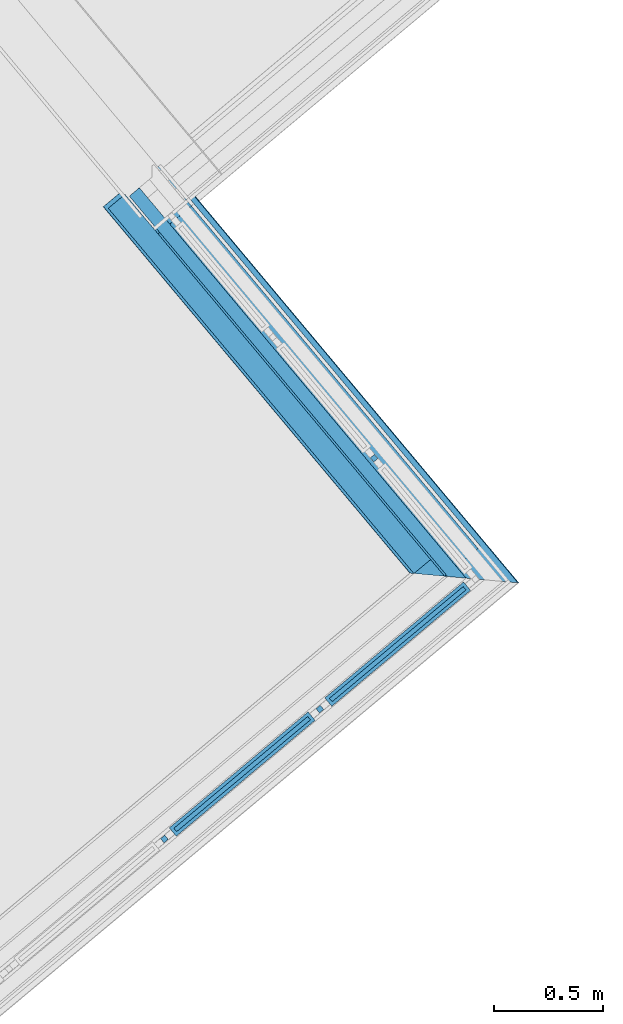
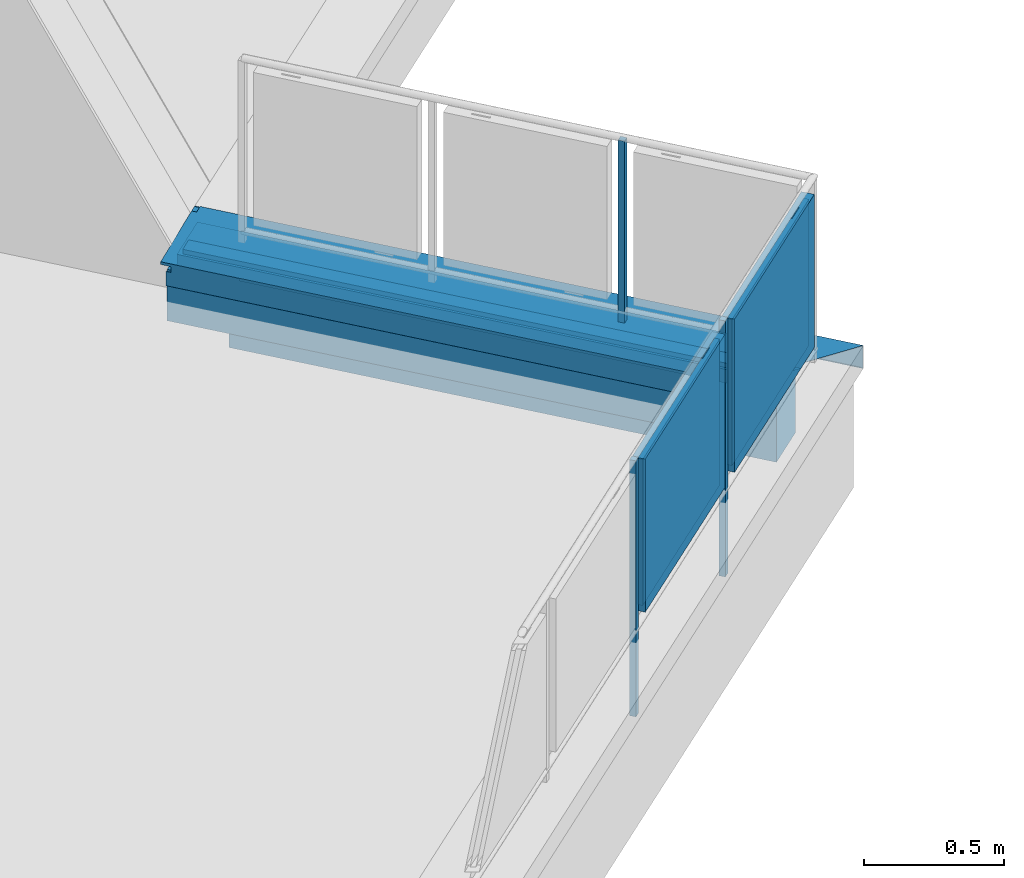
# One storey, part 22 of 61: 13 building element parts, 2 elements without a shape of their own.
"""IFC4 building model written with IfcOpenShell, lengths in metres."""

from ifc_helpers import new_model, entity, si_unit, converted_unit, derived_unit, direction, frame, origin_with_axes, place, context, subcontext, project, spatial, polygons, material, type_object, element, aggregate, save


model = new_model("IFC4")

# Units and contexts
model_context = context("Model", 3, precision=1e-05, world=origin_with_axes(), true_north=direction((0.0, 1.0)))
body_context = subcontext(model_context, "Body", "Model", "MODEL_VIEW")
ifc_project = project(units=[si_unit("LENGTHUNIT", "METRE"), si_unit("AREAUNIT", "SQUARE_METRE"), si_unit("VOLUMEUNIT", "CUBIC_METRE"), converted_unit("PLANEANGLEUNIT", "DEGREE", entity("IfcPlaneAngleMeasure", 0.0174532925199), si_unit("PLANEANGLEUNIT", "RADIAN"), dimensions=[0, 0, 0, 0, 0, 0, 0]), converted_unit("TIMEUNIT", "Year", entity("IfcTimeMeasure", 31556926.0), si_unit("TIMEUNIT", "SECOND"), dimensions=[0, 0, 1, 0, 0, 0, 0]), si_unit("MASSUNIT", "GRAM", prefix="KILO"), si_unit("THERMODYNAMICTEMPERATUREUNIT", "DEGREE_CELSIUS"), si_unit("LUMINOUSINTENSITYUNIT", "LUMEN"), si_unit("ENERGYUNIT", "JOULE", prefix="MEGA"), derived_unit("THERMALCONDUCTANCEUNIT", [(si_unit("POWERUNIT", "WATT"), 1), (si_unit("LENGTHUNIT", "METRE"), -1), (si_unit("THERMODYNAMICTEMPERATUREUNIT", "KELVIN"), -1)]), derived_unit("SPECIFICHEATCAPACITYUNIT", [(si_unit("ENERGYUNIT", "JOULE"), 1), (si_unit("MASSUNIT", "GRAM", prefix="KILO"), -1), (si_unit("THERMODYNAMICTEMPERATUREUNIT", "KELVIN"), -1)]), derived_unit("MASSDENSITYUNIT", [(si_unit("MASSUNIT", "GRAM", prefix="KILO"), 1), (si_unit("VOLUMEUNIT", "CUBIC_METRE"), -1)])], contexts=[model_context])

# Site, building, storey, space
site_placement = place(None, frame((-0.00153261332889, -0.00661245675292, 0.0), z_axis=(0.0, 0.0, 1.0), x_axis=(1.0, 0.0, 0.0)))
site = spatial("IfcSite", under=ifc_project, at=site_placement, Name="Gelände", CompositionType="ELEMENT")
building_placement = place(site_placement, origin_with_axes())
building = spatial("IfcBuilding", under=site, at=building_placement, Name="Gebäude", CompositionType="ELEMENT")
storey_placement = place(building_placement, frame((0.0, 0.0, 5.7), z_axis=(0.0, 0.0, 1.0), x_axis=(1.0, 0.0, 0.0)))
storey = spatial("IfcBuildingStorey", under=building, at=storey_placement, Name="DG1", CompositionType="ELEMENT", Elevation=5.7)
space_placement = place(storey_placement, frame((-1.65459986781, 9.80045444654, 0.22), z_axis=(0.0, 0.0, 1.0), x_axis=(0.640908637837, -0.767617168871, 0.0)))
space = spatial("IfcSpace", under=storey, at=space_placement, CompositionType="ELEMENT", PredefinedType="NOTDEFINED")

# Wall, building element parts
wall_type = type_object("IfcWallType", Name="Bauteil - Attika Balkon 356 x 610", PredefinedType="NOTDEFINED")
wall_placement = place(space_placement, frame((3.6878869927, 8.04651820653, -0.42), z_axis=(0.0, 0.0, 1.0), x_axis=(-0.999999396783, -0.00109837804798, 0.0)))
wall = element("IfcWall", 1, at=wall_placement, inside=space, type_object=wall_type, Name="Wand-003", PredefinedType="NOTDEFINED")
ifc_material_1 = material(Name="Stahl")
building_element_part_1_placement = place(wall_placement, origin_with_axes())
building_element_part_1 = element("IfcBuildingElementPart", 2, at=building_element_part_1_placement, material=ifc_material_1, Name="Stahl", PredefinedType="NOTDEFINED", context=body_context, shape_type="Tessellation", body=[
    polygons([(2.28816066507, 0.113600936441, 0.497561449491), (2.28816064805, 0.113600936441, 0.49999999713), (2.28816064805, 0.112247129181, 0.49999999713), (2.28816066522, 0.112247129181, 0.498915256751), (2.28816064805, 0.111162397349, 0.49999999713), (2.28816064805, 0.109247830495, 0.49999999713), (2.28816066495, 0.112643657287, 0.496604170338), (0.11366744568, 0.113600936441, 0.497561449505), (0.11366744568, 0.113600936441, 0.498915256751), (0.11366744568, 0.113600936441, 0.499999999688), (0.11366744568, 0.113600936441, 0.506731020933), (0.11366744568, 0.113600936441, 0.509099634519), (0.11366744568, 0.113600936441, 0.511410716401), (0.11366744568, 0.113600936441, 0.519273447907), (0.11366744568, 0.113600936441, 0.560000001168), (0.11366744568, 0.113600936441, 0.575576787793), (0.11366744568, 0.113600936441, 0.57982217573), (0.11366744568, 0.113600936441, 0.581921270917), (0.11366744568, 0.113600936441, 0.584015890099), (0.11366744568, 0.113600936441, 0.586106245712), (0.11366744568, 0.113600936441, 0.595846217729), (0.11366744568, 0.113600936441, 0.597151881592), (2.30819672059, 0.113600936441, 0.597151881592), (2.30855126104, 0.113600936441, 0.585743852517), (2.26892354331, 0.113600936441, 0.58451230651), (2.26901216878, 0.113600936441, 0.560000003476), (2.28816065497, 0.113600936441, 0.560000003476), (2.28816065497, 0.112247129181, 0.560000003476), (2.26901216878, 0.112247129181, 0.560000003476), (2.26892354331, 0.112247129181, 0.58451230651), (2.30855126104, 0.112247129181, 0.585743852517), (2.30823729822, 0.112247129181, 0.595846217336), (0.113666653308, 0.112247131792, 0.595846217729), (0.113666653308, 0.112247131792, 0.586106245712), (0.113666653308, 0.112247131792, 0.584015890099), (0.113666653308, 0.112247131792, 0.581921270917), (0.113666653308, 0.112247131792, 0.57982217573), (0.113666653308, 0.112247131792, 0.575576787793), (0.113666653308, 0.112247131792, 0.560000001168), (0.113666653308, 0.112247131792, 0.519273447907), (0.113666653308, 0.112247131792, 0.511410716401), (0.113666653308, 0.112247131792, 0.509099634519), (0.113666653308, 0.112247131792, 0.506731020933), (0.113666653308, 0.112247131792, 0.499999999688), (0.113666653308, 0.112247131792, 0.498915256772), (0.112312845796, 0.112247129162, 0.498915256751), (0.111227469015, 0.111162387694, 0.499999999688), (0.104492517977, 0.104431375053, 0.506731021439), (2.28816064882, 0.104431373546, 0.506731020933), (2.28816064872, 0.103427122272, 0.505820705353), (0.105402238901, 0.103427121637, 0.505820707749), (0.111226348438, 0.109247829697, 0.499999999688), (0.11231172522, 0.110332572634, 0.498915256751), (0.11366553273, 0.110332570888, 0.498915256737), (0.113666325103, 0.11168637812, 0.497561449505), (0.11270960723, 0.112643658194, 0.496604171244), (0.113645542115, 0.076177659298, 0.597151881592), (2.30791770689, -0.134301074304, 0.606129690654), (-0.201826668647, -0.201708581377, 0.608570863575), (-0.204072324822, -0.203952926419, 0.608652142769), (-0.242849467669, -0.242707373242, 0.610055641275), (2.28816065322, -0.242707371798, 0.610055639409), (2.28816065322, -0.171687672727, 0.607483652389), (2.30787743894, -0.171687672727, 0.607483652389), (2.30791770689, -0.171838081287, 0.606129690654), (2.30787743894, -0.209241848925, 0.607483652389), (2.28816065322, -0.209241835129, 0.607483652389), (2.28816065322, -0.23927649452, 0.608570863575), (-0.201848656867, -0.23927649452, 0.608570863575), (-0.204094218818, -0.24135985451, 0.608652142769), (-0.20409500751, -0.242707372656, 0.608652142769), (2.30791770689, -0.242707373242, 0.606129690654), (2.30787743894, -0.242707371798, 0.607483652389), (2.28816065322, -0.242707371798, 0.607483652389), (-0.241502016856, -0.242707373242, 0.60865214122), (-0.241502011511, -0.242707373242, 0.608570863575), (-0.241501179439, -0.242707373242, 0.595846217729), (-0.241500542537, -0.242707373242, 0.586106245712), (-0.241500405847, -0.242707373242, 0.584015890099), (-0.241500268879, -0.242707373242, 0.581921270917), (-0.241500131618, -0.242707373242, 0.57982217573), (-0.24149985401, -0.242707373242, 0.575576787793), (-0.241498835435, -0.242707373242, 0.560000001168), (-0.241496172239, -0.242707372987, 0.519273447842), (-0.241495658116, -0.242707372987, 0.511410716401), (-0.239581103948, -0.242707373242, 0.511410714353), (-0.240934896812, -0.242707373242, 0.510056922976), (2.05142693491, -0.242707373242, 0.510056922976), (2.05133740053, -0.242707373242, 0.511410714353), (2.05081739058, -0.242707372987, 0.519273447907), (2.04812389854, -0.242707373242, 0.560000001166), (2.04709371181, -0.242707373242, 0.575576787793), (2.04695865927, -0.242707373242, 0.577618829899), (2.04685377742, -0.242707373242, 0.579204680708), (2.04681293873, -0.242707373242, 0.57982217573), (2.04673066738, -0.242707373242, 0.581066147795), (2.04667411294, -0.242707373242, 0.581921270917), (2.04662543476, -0.242707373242, 0.582657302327), (2.04653558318, -0.242707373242, 0.584015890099), (2.04650275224, -0.242707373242, 0.584512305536), (2.04639733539, -0.242707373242, 0.586106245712), (2.04575317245, -0.242707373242, 0.595846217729), (2.04558999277, -0.242707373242, 0.598313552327), (2.04646649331, -0.242707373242, 0.598339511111), (2.28816065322, -0.241359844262, 0.607483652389), (2.28816065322, -0.24135992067, 0.60865214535), (-0.241501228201, -0.241359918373, 0.608652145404), (2.30791770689, -0.241359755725, 0.606129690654), (2.30787743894, -0.241359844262, 0.607483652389), (-0.241501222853, -0.241359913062, 0.608570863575), (-0.241500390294, -0.24135908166, 0.595846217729), (-0.241499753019, -0.24135844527, 0.586106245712), (-0.24149961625, -0.24135830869, 0.584015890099), (-0.241499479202, -0.241358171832, 0.581921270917), (-0.24149934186, -0.241358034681, 0.57982217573), (-0.24149906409, -0.241357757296, 0.575576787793), (-0.241498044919, -0.241356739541, 0.560000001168), (-0.241495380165, -0.241354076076, 0.519273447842), (-0.24149486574, -0.241353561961, 0.511410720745), (-0.239580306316, -0.241353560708, 0.511410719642), (-0.239579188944, -0.239439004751, 0.511410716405), (-0.241891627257, -0.241750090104, 0.509099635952), (2.0514902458, -0.241750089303, 0.509099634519), (2.05145397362, -0.242298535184, 0.509648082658), (2.05145397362, -0.241201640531, 0.509648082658), (2.0513374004, -0.239439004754, 0.511410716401), (2.05133740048, -0.241353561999, 0.511410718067), (2.05081739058, -0.241354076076, 0.519273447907), (2.04812389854, -0.241356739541, 0.560000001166), (2.04709371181, -0.241357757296, 0.575576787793), (2.04695865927, -0.241357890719, 0.577618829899), (2.04685377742, -0.241357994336, 0.579204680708), (2.04681293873, -0.241358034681, 0.57982217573), (2.04673066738, -0.24135811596, 0.581066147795), (2.04667411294, -0.241358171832, 0.581921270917), (2.04662543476, -0.241358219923, 0.582657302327), (2.04653558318, -0.24135830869, 0.584015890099), (2.04650275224, -0.241358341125, 0.584512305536), (2.04639733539, -0.24135844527, 0.586106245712), (2.04575317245, -0.24135908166, 0.595846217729), (2.04558999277, -0.241359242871, 0.598313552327), (2.04646649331, -0.241359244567, 0.598339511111), (2.28816065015, -0.232580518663, 0.518269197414), (2.2881606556, -0.239439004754, 0.511410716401), (2.07316067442, -0.239439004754, 0.511410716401), (-0.232716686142, -0.232580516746, 0.518269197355), (-0.232717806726, -0.234495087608, 0.518269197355), (2.07316068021, -0.241353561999, 0.511410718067), (2.28816064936, -0.241353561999, 0.511410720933), (2.28816065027, -0.233490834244, 0.519273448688), (-0.233627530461, -0.233490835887, 0.519273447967)], [[[1, 2, 3, 4, 5, 6, 7]], [[2, 1, 8, 9, 10, 11, 12, 13, 14, 15, 16, 17, 18, 19, 20, 21, 22, 23, 24, 25, 26, 27]], [[2, 27, 28, 3]], [[4, 3, 28, 29, 30, 31, 32, 33, 34, 35, 36, 37, 38, 39, 40, 41, 42, 43, 44, 45]], [[5, 4, 45, 46, 47, 48, 49]], [[6, 5, 49, 50]], [[7, 6, 50, 51, 52, 53, 54, 55, 56]], [[1, 7, 56, 8]], [[45, 9, 8, 55, 54]], [[10, 9, 45, 44]], [[11, 10, 44, 43]], [[12, 11, 43, 42]], [[13, 12, 42, 41]], [[14, 13, 41, 40]], [[15, 14, 40, 39]], [[16, 15, 39, 38]], [[17, 16, 38, 37]], [[17, 37, 36, 18]], [[19, 18, 36, 35]], [[20, 19, 35, 34]], [[21, 20, 34, 33]], [[22, 21, 33, 57]], [[58, 23, 22, 59, 60, 61, 62, 63, 64]], [[31, 24, 23, 58, 65, 32]], [[30, 25, 24, 31]], [[29, 26, 25, 30]], [[28, 27, 26, 29]], [[32, 65, 66, 67, 68, 69, 57, 33]], [[46, 45, 54, 53]], [[47, 46, 53, 52]], [[51, 48, 47, 52]], [[50, 49, 48, 51]], [[8, 56, 55]], [[22, 57, 69, 59]], [[60, 59, 69, 70]], [[61, 60, 70, 71]], [[72, 73, 74, 62, 61, 71, 75, 76, 77, 78, 79, 80, 81, 82, 83, 84, 85, 86, 87, 88, 89, 90, 91, 92, 93, 94, 95, 96, 97, 98, 99, 100, 101, 102, 103, 104]], [[67, 63, 62, 74, 105, 106, 68]], [[64, 63, 67, 66]], [[58, 64, 66, 65]], [[68, 106, 70, 69]], [[107, 75, 71, 70]], [[108, 109, 73, 72]], [[109, 105, 74, 73]], [[110, 76, 75, 107]], [[110, 111, 77, 76]], [[111, 112, 78, 77]], [[112, 113, 79, 78]], [[113, 114, 80, 79]], [[115, 81, 80, 114]], [[115, 116, 82, 81]], [[116, 117, 83, 82]], [[117, 118, 84, 83]], [[118, 119, 85, 84]], [[119, 120, 86, 85]], [[121, 122, 87, 86, 120]], [[122, 123, 124, 88, 87]], [[125, 126, 127, 89, 88, 124]], [[127, 128, 90, 89]], [[90, 128, 129, 91]], [[129, 130, 92, 91]], [[130, 131, 93, 92]], [[131, 132, 94, 93]], [[132, 133, 95, 94]], [[133, 134, 96, 95]], [[134, 135, 97, 96]], [[135, 136, 98, 97]], [[136, 137, 99, 98]], [[137, 138, 100, 99]], [[138, 139, 101, 100]], [[139, 140, 102, 101]], [[102, 140, 141, 103]], [[141, 142, 104, 103]], [[108, 72, 104, 142]], [[109, 108, 142, 141, 140, 139, 138, 137, 136, 135, 134, 133, 132, 131, 130, 129, 128, 127, 120, 119, 118, 117, 116, 115, 114, 113, 112, 111, 110, 107, 70, 106, 105]], [[143, 144, 145, 126, 125, 123, 122, 121, 146]], [[146, 121, 120, 147]], [[123, 125, 124]], [[127, 126, 145, 148]], [[149, 150, 151, 147, 120, 127, 148]], [[143, 150, 149, 144]], [[144, 149, 148, 145]], [[150, 143, 146, 151]], [[146, 147, 151]]], closed=True),
])
ifc_material_2 = material(Name="Holzwerkstoff")
building_element_part_2_placement = place(wall_placement, origin_with_axes())
building_element_part_2 = element("IfcBuildingElementPart", 3, at=building_element_part_2_placement, material=ifc_material_2, Name="Holzwerkstoff", PredefinedType="NOTDEFINED", context=body_context, shape_type="Tessellation", body=[
    polygons([(2.26892354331, 0.111851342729, 0.58451230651), (2.26895585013, 0.111539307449, 0.575576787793), (0.111604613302, 0.111539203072, 0.575576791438), (0.111752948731, 0.111687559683, 0.579822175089), (0.111826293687, 0.111760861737, 0.581921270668), (0.111899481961, 0.11183400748, 0.584015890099), (0.111972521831, 0.111907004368, 0.586106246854), (0.112312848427, 0.112247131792, 0.5958462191), (2.30823729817, 0.112247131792, 0.5958462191), (2.30855126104, 0.111894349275, 0.585743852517), (2.26894050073, -0.0100326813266, 0.579822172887), (2.26892354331, -0.144340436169, 0.58451230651), (2.26892533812, -0.13012497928, 0.584015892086), (2.26893291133, -0.0701429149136, 0.581921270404), (0.111681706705, -0.0100326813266, 0.579822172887), (0.111719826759, -0.0701429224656, 0.581921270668), (0.111757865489, -0.130124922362, 0.584015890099), (0.111795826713, -0.189984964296, 0.586106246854), (0.111827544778, -0.23999998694, 0.587852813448), (0.112106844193, -0.239720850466, 0.5958462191), (2.30791770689, -0.171838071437, 0.606129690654), (-0.239416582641, -0.239276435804, 0.608570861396), (2.28816065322, -0.23927649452, 0.608570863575), (2.28816065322, -0.209241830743, 0.607483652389), (2.30787743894, -0.209241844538, 0.607483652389), (2.30791770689, -0.239361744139, 0.606129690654), (2.30848571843, -0.23999998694, 0.587852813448), (2.30853999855, -0.189984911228, 0.586106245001), (2.30855126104, -0.179607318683, 0.585743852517), (2.30787743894, -0.239314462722, 0.607483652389), (2.28816065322, -0.23931446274, 0.607483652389)], [[[1, 2, 3, 4, 5, 6, 7, 8, 9, 10]], [[11, 2, 1, 12, 13, 14]], [[2, 11, 15, 3]], [[4, 3, 15]], [[5, 4, 15, 16]], [[6, 5, 16, 17]], [[7, 6, 17, 18]], [[8, 7, 18, 19, 20]], [[21, 9, 8, 22, 23, 24, 25]], [[10, 9, 21, 26, 27, 28, 29]], [[1, 10, 29, 12]], [[13, 12, 29, 28, 18, 17]], [[14, 13, 17, 16]], [[11, 14, 16, 15]], [[18, 28, 27, 19]], [[30, 31, 23, 22, 20, 19, 27, 26]], [[22, 8, 20]], [[31, 24, 23]], [[24, 31, 30, 25]], [[21, 25, 30, 26]]], closed=True),
])
ifc_material_3 = material(Name="EPS 1")
building_element_part_3_placement = place(wall_placement, origin_with_axes())
building_element_part_3 = element("IfcBuildingElementPart", 4, at=building_element_part_3_placement, material=ifc_material_3, Name="EPS 1", PredefinedType="NOTDEFINED", context=body_context, shape_type="Tessellation", body=[
    polygons([(0.100058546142, 0.0999999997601, 0.560000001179), (0.100000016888, -2.39911202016e-10, 0.560000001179), (2.28816065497, -2.39909425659e-10, 0.560000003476), (2.28816065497, 0.0999999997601, 0.560000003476), (0.100000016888, -2.39911202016e-10, 0.519273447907), (0.100058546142, 0.0999999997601, 0.519273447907), (0.100000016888, -2.39911202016e-10, 0.511410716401), (0.100000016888, -2.39911202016e-10, 0.509099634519), (0.100000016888, -2.39911202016e-10, 0.506731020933), (0.100000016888, -2.39911202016e-10, 0.499999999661), (0.100000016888, -2.39911202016e-10, 0.498915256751), (0.100000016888, -2.39911202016e-10, 0.496604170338), (0.100000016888, -2.39911202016e-10, 0.334999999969), (2.28816064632, -2.39911202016e-10, 0.334999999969), (2.28816064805, -2.39909425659e-10, 0.49999999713), (2.28816064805, 0.0999999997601, 0.49999999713), (2.28816064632, 0.0999999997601, 0.334999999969), (0.100058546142, 0.0999999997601, 0.334999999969), (0.100058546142, 0.0999999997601, 0.496604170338), (0.100058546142, 0.0999999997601, 0.498915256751), (0.100058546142, 0.0999999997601, 0.499999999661), (0.100058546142, 0.0999999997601, 0.506731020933), (0.100058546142, 0.0999999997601, 0.509099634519), (0.100058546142, 0.0999999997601, 0.511410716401)], [[[1, 2, 3, 4]], [[5, 2, 1, 6]], [[2, 5, 7, 8, 9, 10, 11, 12, 13, 14, 15, 3]], [[16, 4, 3, 15]], [[6, 1, 4, 16, 17, 18, 19, 20, 21, 22, 23, 24]], [[5, 6, 24, 7]], [[7, 24, 23, 8]], [[8, 23, 22, 9]], [[9, 22, 21, 10]], [[10, 21, 20, 11]], [[11, 20, 19, 12]], [[12, 19, 18, 13]], [[13, 18, 17, 14]], [[16, 15, 14, 17]]], closed=True),
])
ifc_material_4 = material(Name="Vollholz")
building_element_part_4_placement = place(wall_placement, origin_with_axes())
building_element_part_4 = element("IfcBuildingElementPart", 5, at=building_element_part_4_placement, material=ifc_material_4, Name="Vollholz", PredefinedType="NOTDEFINED", context=body_context, shape_type="Tessellation", body=[
    polygons([(-0.0100385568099, -0.0100326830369, 0.579822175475), (-0.0701839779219, -0.0701429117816, 0.581921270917), (2.26893291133, -0.0701429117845, 0.581921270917), (2.26894050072, -0.0100326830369, 0.579822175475), (-0.0100737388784, -0.0701429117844, 0.579822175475), (-0.0100973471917, -0.0701429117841, 0.575576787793), (-0.010183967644, -0.0701429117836, 0.560000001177), (2.26901216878, -0.0701429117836, 0.560000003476), (2.26901216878, -0.0101429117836, 0.560000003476), (-0.0100621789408, -0.0100562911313, 0.575576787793), (-0.0101488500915, -0.0101429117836, 0.560000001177)], [[[1, 2, 3, 4]], [[5, 2, 1]], [[2, 5, 6, 7, 8, 3]], [[9, 4, 3, 8]], [[10, 1, 4, 9, 11]], [[5, 1, 10, 6]], [[6, 10, 11, 7]], [[7, 11, 9, 8]]], closed=True),
])
ifc_material_5 = material(Name="Stahlbeton")
building_element_part_5_placement = place(wall_placement, origin_with_axes())
building_element_part_5 = element("IfcBuildingElementPart", 6, at=building_element_part_5_placement, material=ifc_material_5, Name="Stahlbeton", PredefinedType="NOTDEFINED", context=body_context, shape_type="Tessellation", body=[
    polygons([(2.05176382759, -0.19999996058, 0.498951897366), (2.0507455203, -0.19999996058, 0.499843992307), (2.05073521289, -0.19999996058, 0.499999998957), (-0.000117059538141, -0.19999996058, 0.500000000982), (-0.00011705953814, -0.19999996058, 0.498915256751), (-0.00011705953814, -0.19999996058, 0.496604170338), (-0.00011705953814, -0.19999996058, 0.334999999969), (-0.000117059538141, -0.19999996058, 0.2), (2.08816069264, -0.19999996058, 0.2), (2.08816069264, -0.19999996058, 0.334999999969), (2.08816069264, -0.19999996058, 0.496604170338), (2.08816069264, -0.19999996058, 0.498915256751), (2.0881606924, -0.19999996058, 0.498951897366), (2.07316067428, -0.19999996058, 0.498951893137), (2.05176382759, -1.0529745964e-09, 0.498951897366), (2.0507455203, -1.0529745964e-09, 0.499843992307), (2.05073521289, -1.0529745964e-09, 0.499999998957), (-1.05358832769e-09, -1.05297104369e-09, 0.500000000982), (-1.05358921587e-09, -1.05297282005e-09, 0.498915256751), (-1.05358921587e-09, -1.05297282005e-09, 0.496604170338), (-1.05358921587e-09, -1.05297282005e-09, 0.334999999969), (-1.05358921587e-09, -1.05297104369e-09, 0.2), (2.08816069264, -1.0529745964e-09, 0.2), (2.08816069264, -1.0529745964e-09, 0.334999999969), (2.08816069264, -1.0529745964e-09, 0.496604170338), (2.08816069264, -1.0529745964e-09, 0.498915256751), (2.0881606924, -1.0529745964e-09, 0.498951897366), (2.07316067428, -1.0529745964e-09, 0.498951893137)], [[[1, 2, 3, 4, 5, 6, 7, 8, 9, 10, 11, 12, 13, 14]], [[2, 1, 15, 16]], [[17, 3, 2, 16]], [[3, 17, 18, 4]], [[5, 4, 18, 19]], [[5, 19, 20, 6]], [[6, 20, 21, 7]], [[7, 21, 22, 8]], [[23, 9, 8, 22]], [[24, 10, 9, 23]], [[25, 11, 10, 24]], [[26, 12, 11, 25]], [[27, 13, 12, 26]], [[28, 14, 13, 27]], [[15, 1, 14, 28]], [[16, 15, 28, 27, 26, 25, 24, 21, 20, 19, 18, 17]], [[24, 23, 22, 21]]], closed=True),
])
ifc_material_6 = material(Name="Brettschichtholz")
building_element_part_6_placement = place(wall_placement, origin_with_axes())
building_element_part_6 = element("IfcBuildingElementPart", 7, at=building_element_part_6_placement, material=ifc_material_6, Name="Brettschichtholz", PredefinedType="NOTDEFINED", context=body_context, shape_type="Tessellation", body=[
    polygons([(-0.00011127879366, -0.190124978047, 0.560000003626), (-0.000125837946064, -0.214999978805, 0.560000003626), (2.28816065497, -0.214999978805, 0.560000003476), (2.28816065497, -0.190124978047, 0.560000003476), (-0.000125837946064, -0.214999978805, 0.519273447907), (-7.61612388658e-05, -0.130124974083, 0.560000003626), (-4.10541848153e-05, -0.0701429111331, 0.560000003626), (-5.93663490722e-06, -0.010142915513, 0.560000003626), (0.0, 0.0, 0.560000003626), (0.0, 0.0, 0.519273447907), (-0.000125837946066, -0.214999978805, 0.511410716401), (-0.000125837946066, -0.214999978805, 0.509099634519), (-0.000125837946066, -0.214999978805, 0.506731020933), (-0.000125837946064, -0.214999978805, 0.499999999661), (2.05073521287, -0.214999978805, 0.499999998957), (2.05065037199, -0.214999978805, 0.501284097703), (2.05029049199, -0.214999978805, 0.506731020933), (2.05013399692, -0.214999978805, 0.509099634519), (2.05149024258, -0.214999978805, 0.509099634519), (2.05885392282, -0.214999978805, 0.509099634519), (2.05933439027, -0.214999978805, 0.509648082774), (2.07316068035, -0.214999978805, 0.509648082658), (2.2881606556, -0.214999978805, 0.509648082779), (2.2881606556, 0.0, 0.509648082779), (2.28816065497, 0.0, 0.560000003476), (2.28816065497, -0.010142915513, 0.560000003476), (2.28816065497, -0.0701429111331, 0.560000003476), (2.28816065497, -0.130124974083, 0.560000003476), (2.07316068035, 0.0, 0.509648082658), (2.05933439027, 0.0, 0.509648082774), (2.05885392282, 0.0, 0.509099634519), (2.05149024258, 0.0, 0.509099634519), (2.05013399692, 0.0, 0.509099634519), (2.05029049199, 0.0, 0.506731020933), (2.05065037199, 0.0, 0.501284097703), (2.05073521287, 0.0, 0.499999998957), (0.0, 0.0, 0.499999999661), (0.0, 0.0, 0.506731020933), (0.0, 0.0, 0.509099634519), (0.0, 0.0, 0.511410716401)], [[[1, 2, 3, 4]], [[5, 2, 1, 6, 7, 8, 9, 10]], [[2, 5, 11, 12, 13, 14, 15, 16, 17, 18, 19, 20, 21, 22, 23, 3]], [[23, 24, 25, 26, 27, 28, 4, 3]], [[6, 1, 4, 28]], [[7, 6, 28, 27]], [[8, 7, 27, 26]], [[9, 8, 26, 25]], [[10, 9, 25, 24, 29, 30, 31, 32, 33, 34, 35, 36, 37, 38, 39, 40]], [[5, 10, 40, 11]], [[11, 40, 39, 12]], [[12, 39, 38, 13]], [[13, 38, 37, 14]], [[36, 15, 14, 37]], [[35, 16, 15, 36]], [[34, 17, 16, 35]], [[18, 17, 34, 33]], [[19, 18, 33, 32]], [[31, 20, 19, 32]], [[21, 20, 31, 30]], [[21, 30, 29, 22]], [[22, 29, 24, 23]]], closed=True),
])
aggregate(wall, [building_element_part_1, building_element_part_2, building_element_part_3, building_element_part_4, building_element_part_5, building_element_part_6])

# Railing, building element parts
railing_type = type_object("IfcRailingType", Name="Geländerart", PredefinedType="NOTDEFINED")
railing_placement = place(space_placement, frame((-0.0155551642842, 0.517171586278, 0.16), z_axis=(0.0, 0.0, 1.0), x_axis=(0.640908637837, 0.767617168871, 0.0)))
railing = element("IfcRailing", 8, at=railing_placement, inside=space, type_object=railing_type, Name="Geländer - 001", PredefinedType="NOTDEFINED")
ifc_material_7 = material(Name="Aluminium")
building_element_part_7_placement = place(railing_placement, origin_with_axes())
building_element_part_7 = element("IfcBuildingElementPart", 9, at=building_element_part_7_placement, material=ifc_material_7, Name="Aluminium", PredefinedType="NOTDEFINED", context=body_context, shape_type="Tessellation", body=[
    polygons([(6.8836808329, 0.773895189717, -0.3), (6.86765100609, 0.793079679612, -0.3), (6.86765100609, 0.793079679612, 0.82), (6.8836808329, 0.773895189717, 0.82), (6.86449634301, 0.75786536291, -0.3), (6.8484665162, 0.777049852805, -0.3), (6.8484665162, 0.777049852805, 0.82), (6.86449634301, 0.75786536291, 0.82)], [[[1, 2, 3, 4]], [[1, 5, 6, 2]], [[2, 6, 7, 3]], [[4, 3, 7, 8]], [[5, 1, 4, 8]], [[6, 5, 8, 7]]], closed=True),
])
ifc_material_8 = material(Name="Profilit")
building_element_part_8_placement = place(railing_placement, origin_with_axes())
building_element_part_8 = element("IfcBuildingElementPart", 10, at=building_element_part_8_placement, material=ifc_material_8, Name="Profilit", PredefinedType="NOTDEFINED", context=body_context, shape_type="Tessellation", body=[
    polygons([(7.52418472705, 1.33839633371, 0.135), (6.90954141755, 0.824823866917, 0.135), (6.90954141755, 0.824823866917, 0.775), (7.52418472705, 1.33839633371, 0.775), (6.922365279, 0.809476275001, 0.135), (7.5370085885, 1.32304874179, 0.135), (6.922365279, 0.809476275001, 0.775), (7.5370085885, 1.32304874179, 0.775)], [[[1, 2, 3, 4]], [[5, 2, 1, 6]], [[7, 3, 2, 5]], [[4, 3, 7, 8]], [[1, 4, 8, 6]], [[7, 5, 6, 8]]], closed=True),
])
building_element_part_9_placement = place(railing_placement, origin_with_axes())
building_element_part_9 = element("IfcBuildingElementPart", 11, at=building_element_part_9_placement, material=ifc_material_7, Name="Aluminium", PredefinedType="NOTDEFINED", context=body_context, shape_type="Tessellation", body=[
    polygons([(6.97957763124, 0.873569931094, 0.12), (7.03329420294, 0.918453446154, 0.12), (7.03329420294, 0.918453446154, 0.095), (6.97957763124, 0.873569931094, 0.095), (6.9827835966, 0.869733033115, 0.12), (7.03650016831, 0.914616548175, 0.12), (7.03650016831, 0.914616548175, 0.095), (6.9827835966, 0.869733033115, 0.095)], [[[1, 2, 3, 4]], [[5, 6, 2, 1]], [[2, 6, 7, 3]], [[4, 3, 7, 8]], [[1, 4, 8, 5]], [[8, 7, 6, 5]]], closed=True),
    polygons([(7.46376640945, 1.27813957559, 0.79), (7.41004983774, 1.23325606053, 0.79), (7.41004983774, 1.23325606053, 0.795), (7.46376640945, 1.27813957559, 0.795), (7.46697237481, 1.27430267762, 0.79), (7.41325580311, 1.22941916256, 0.79), (7.41325580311, 1.22941916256, 0.795), (7.46697237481, 1.27430267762, 0.795)], [[[1, 2, 3, 4]], [[5, 6, 2, 1]], [[2, 6, 7, 3]], [[4, 3, 7, 8]], [[1, 4, 8, 5]], [[8, 7, 6, 5]]], closed=True),
    polygons([(6.92047248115, 0.78834768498, 0.12), (6.88841282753, 0.82671666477, 0.12), (7.5260775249, 1.35952492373, 0.12), (7.55813717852, 1.32115594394, 0.12), (6.93582007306, 0.801171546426, 0.14), (6.92620217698, 0.812682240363, 0.14), (6.922365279, 0.809476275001, 0.135), (6.90954141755, 0.824823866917, 0.135), (6.91337831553, 0.828029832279, 0.14), (6.90376041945, 0.839540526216, 0.14), (7.51072993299, 1.34670106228, 0.14), (7.51072993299, 1.34670106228, 0.77), (6.90376041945, 0.839540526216, 0.77), (6.90376041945, 0.839540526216, 0.14), (6.88841282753, 0.82671666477, 0.12), (6.88841282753, 0.82671666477, 0.79), (7.5260775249, 1.35952492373, 0.79), (7.55813717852, 1.32115594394, 0.79), (6.92047248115, 0.78834768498, 0.79), (6.92047248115, 0.78834768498, 0.12), (6.93582007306, 0.801171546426, 0.14), (6.93582007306, 0.801171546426, 0.77), (7.5427895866, 1.30833208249, 0.77), (7.5427895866, 1.30833208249, 0.14), (7.53317169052, 1.31984277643, 0.14), (7.53317169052, 1.31984277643, 0.77), (6.92620217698, 0.812682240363, 0.77), (6.92620217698, 0.812682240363, 0.14), (6.922365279, 0.809476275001, 0.135), (6.922365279, 0.809476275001, 0.775), (7.5370085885, 1.32304874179, 0.775), (7.5370085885, 1.32304874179, 0.135), (7.52418472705, 1.33839633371, 0.135), (7.52418472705, 1.33839633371, 0.775), (6.90954141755, 0.824823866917, 0.775), (6.90954141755, 0.824823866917, 0.135), (6.91337831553, 0.828029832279, 0.14), (6.91337831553, 0.828029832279, 0.77), (7.52034782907, 1.33519036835, 0.77), (7.52034782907, 1.33519036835, 0.14)], [[[1, 2, 3, 4]], [[1, 5, 6, 7, 8, 9, 10, 2]], [[2, 10, 11, 12, 13, 14, 15, 16, 17, 3]], [[4, 3, 17, 18]], [[5, 1, 4, 18, 19, 20, 21, 22, 23, 24]], [[6, 5, 24, 25]], [[7, 6, 25, 26, 27, 28, 29, 30, 31, 32]], [[8, 7, 32, 33]], [[9, 8, 33, 34, 35, 36, 37, 38, 39, 40]], [[10, 9, 40, 11]], [[11, 40, 39, 12]], [[12, 39, 38, 13]], [[13, 38, 37, 14]], [[20, 15, 14, 37, 36, 29, 28, 21]], [[19, 16, 15, 20]], [[18, 17, 16, 19]], [[27, 22, 21, 28]], [[26, 23, 22, 27]], [[25, 24, 23, 26]], [[35, 30, 29, 36]], [[34, 31, 30, 35]], [[33, 32, 31, 34]]], closed=True),
])
building_element_part_10_placement = place(railing_placement, origin_with_axes())
building_element_part_10 = element("IfcBuildingElementPart", 12, at=building_element_part_10_placement, material=ifc_material_7, Name="Aluminium", PredefinedType="NOTDEFINED", context=body_context, shape_type="Tessellation", body=[
    polygons([(7.59808348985, 1.3708227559, -0.3), (7.58205366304, 1.3900072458, -0.3), (7.58205366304, 1.3900072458, 0.82), (7.59808348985, 1.3708227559, 0.82), (7.57889899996, 1.3547929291, -0.3), (7.56286917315, 1.37397741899, -0.3), (7.56286917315, 1.37397741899, 0.82), (7.57889899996, 1.3547929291, 0.82)], [[[1, 2, 3, 4]], [[1, 5, 6, 2]], [[2, 6, 7, 3]], [[4, 3, 7, 8]], [[5, 1, 4, 8]], [[6, 5, 8, 7]]], closed=True),
])
building_element_part_11_placement = place(railing_placement, origin_with_axes())
building_element_part_11 = element("IfcBuildingElementPart", 13, at=building_element_part_11_placement, material=ifc_material_8, Name="Profilit", PredefinedType="NOTDEFINED", context=body_context, shape_type="Tessellation", body=[
    polygons([(8.238587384, 1.9353238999, 0.135), (7.6239440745, 1.42175143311, 0.135), (7.6239440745, 1.42175143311, 0.775), (8.238587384, 1.9353238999, 0.775), (7.63676793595, 1.40640384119, 0.135), (8.25141124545, 1.91997630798, 0.135), (7.63676793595, 1.40640384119, 0.775), (8.25141124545, 1.91997630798, 0.775)], [[[1, 2, 3, 4]], [[5, 2, 1, 6]], [[7, 3, 2, 5]], [[4, 3, 7, 8]], [[1, 4, 8, 6]], [[7, 5, 6, 8]]], closed=True),
])
building_element_part_12_placement = place(railing_placement, origin_with_axes())
building_element_part_12 = element("IfcBuildingElementPart", 14, at=building_element_part_12_placement, material=ifc_material_7, Name="Aluminium", PredefinedType="NOTDEFINED", context=body_context, shape_type="Tessellation", body=[
    polygons([(7.69398028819, 1.47049749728, 0.12), (7.7476968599, 1.51538101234, 0.12), (7.7476968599, 1.51538101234, 0.095), (7.69398028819, 1.47049749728, 0.095), (7.69718625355, 1.4666605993, 0.12), (7.75090282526, 1.51154411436, 0.12), (7.75090282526, 1.51154411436, 0.095), (7.69718625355, 1.4666605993, 0.095)], [[[1, 2, 3, 4]], [[5, 6, 2, 1]], [[2, 6, 7, 3]], [[4, 3, 7, 8]], [[1, 4, 8, 5]], [[8, 7, 6, 5]]], closed=True),
    polygons([(8.1781690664, 1.87506714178, 0.79), (8.1244524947, 1.83018362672, 0.79), (8.1244524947, 1.83018362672, 0.795), (8.1781690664, 1.87506714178, 0.795), (8.18137503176, 1.8712302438, 0.79), (8.12765846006, 1.82634672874, 0.79), (8.12765846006, 1.82634672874, 0.795), (8.18137503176, 1.8712302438, 0.795)], [[[1, 2, 3, 4]], [[5, 6, 2, 1]], [[2, 6, 7, 3]], [[4, 3, 7, 8]], [[1, 4, 8, 5]], [[8, 7, 6, 5]]], closed=True),
    polygons([(7.6348751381, 1.38527525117, 0.12), (7.60281548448, 1.42364423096, 0.12), (8.24048018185, 1.95645248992, 0.12), (8.27253983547, 1.91808351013, 0.12), (7.65022273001, 1.39809911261, 0.14), (7.64060483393, 1.40960980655, 0.14), (7.63676793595, 1.40640384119, 0.135), (7.6239440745, 1.42175143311, 0.135), (7.62778097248, 1.42495739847, 0.14), (7.6181630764, 1.4364680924, 0.14), (8.22513258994, 1.94362862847, 0.14), (8.22513258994, 1.94362862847, 0.77), (7.6181630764, 1.4364680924, 0.77), (7.6181630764, 1.4364680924, 0.14), (7.60281548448, 1.42364423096, 0.12), (7.60281548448, 1.42364423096, 0.79), (8.24048018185, 1.95645248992, 0.79), (8.27253983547, 1.91808351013, 0.79), (7.6348751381, 1.38527525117, 0.79), (7.6348751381, 1.38527525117, 0.12), (7.65022273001, 1.39809911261, 0.14), (7.65022273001, 1.39809911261, 0.77), (8.25719224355, 1.90525964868, 0.77), (8.25719224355, 1.90525964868, 0.14), (8.24757434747, 1.91677034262, 0.14), (8.24757434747, 1.91677034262, 0.77), (7.64060483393, 1.40960980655, 0.77), (7.64060483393, 1.40960980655, 0.14), (7.63676793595, 1.40640384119, 0.135), (7.63676793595, 1.40640384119, 0.775), (8.25141124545, 1.91997630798, 0.775), (8.25141124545, 1.91997630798, 0.135), (8.238587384, 1.9353238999, 0.135), (8.238587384, 1.9353238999, 0.775), (7.6239440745, 1.42175143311, 0.775), (7.6239440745, 1.42175143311, 0.135), (7.62778097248, 1.42495739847, 0.14), (7.62778097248, 1.42495739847, 0.77), (8.23475048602, 1.93211793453, 0.77), (8.23475048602, 1.93211793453, 0.14)], [[[1, 2, 3, 4]], [[1, 5, 6, 7, 8, 9, 10, 2]], [[2, 10, 11, 12, 13, 14, 15, 16, 17, 3]], [[4, 3, 17, 18]], [[5, 1, 4, 18, 19, 20, 21, 22, 23, 24]], [[6, 5, 24, 25]], [[7, 6, 25, 26, 27, 28, 29, 30, 31, 32]], [[8, 7, 32, 33]], [[9, 8, 33, 34, 35, 36, 37, 38, 39, 40]], [[10, 9, 40, 11]], [[11, 40, 39, 12]], [[12, 39, 38, 13]], [[13, 38, 37, 14]], [[20, 15, 14, 37, 36, 29, 28, 21]], [[19, 16, 15, 20]], [[18, 17, 16, 19]], [[27, 22, 21, 28]], [[26, 23, 22, 27]], [[25, 24, 23, 26]], [[35, 30, 29, 36]], [[34, 31, 30, 35]], [[33, 32, 31, 34]]], closed=True),
])
building_element_part_13_placement = place(railing_placement, origin_with_axes())
building_element_part_13 = element("IfcBuildingElementPart", 15, at=building_element_part_13_placement, material=ifc_material_7, Name="Aluminium", PredefinedType="NOTDEFINED", context=body_context, shape_type="Tessellation", body=[
    polygons([(7.83113605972, 2.54290884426, -0.3), (7.81196441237, 2.52686366, -0.3), (7.81196441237, 2.52686366, 0.82), (7.83113605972, 2.54290884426, 0.82), (7.84718124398, 2.52373719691, -0.3), (7.82800959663, 2.50769201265, -0.3), (7.82800959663, 2.50769201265, 0.82), (7.84718124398, 2.52373719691, 0.82)], [[[1, 2, 3, 4]], [[1, 5, 6, 2]], [[2, 6, 7, 3]], [[4, 3, 7, 8]], [[5, 1, 4, 8]], [[6, 5, 8, 7]]], closed=True),
])
aggregate(railing, [building_element_part_7, building_element_part_8, building_element_part_9, building_element_part_10, building_element_part_11, building_element_part_12, building_element_part_13])

save(model, "model.ifc")
